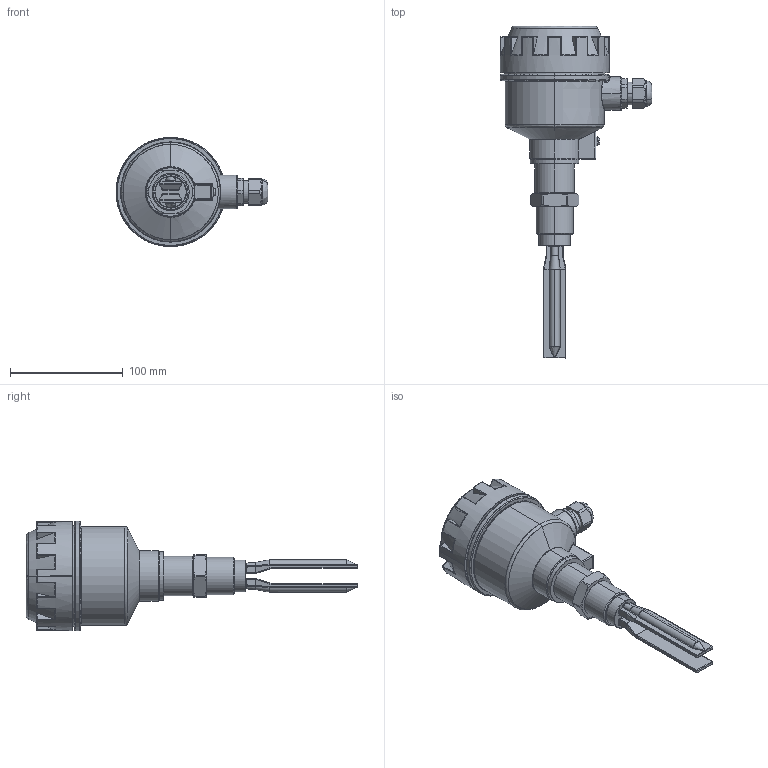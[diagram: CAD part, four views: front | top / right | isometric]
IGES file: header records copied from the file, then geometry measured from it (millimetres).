
Start section: SolidWorks IGES file using analytic representation for surfaces
Global section: file name: C:\Users\Äîì\Desktop\Äàò÷èêè ìîäåëè\IL-VUA\Äëÿ Êîìïàñà\IL-VUA.IGS; native system: SolidWorks 2020; preprocessor: SolidWorks 2020; author: Äîì; date: 201214.133904; units: millimetre
Bounding box: 135 x 295 x 97 mm (x, y, z)
Surface area: 92972.2 mm2 (no closed solid volume)
Topology: 0 solids, 0 shells, 552 faces, 5327 edges, 5279 vertices
Faces by surface type: revolution 297, bspline 255
